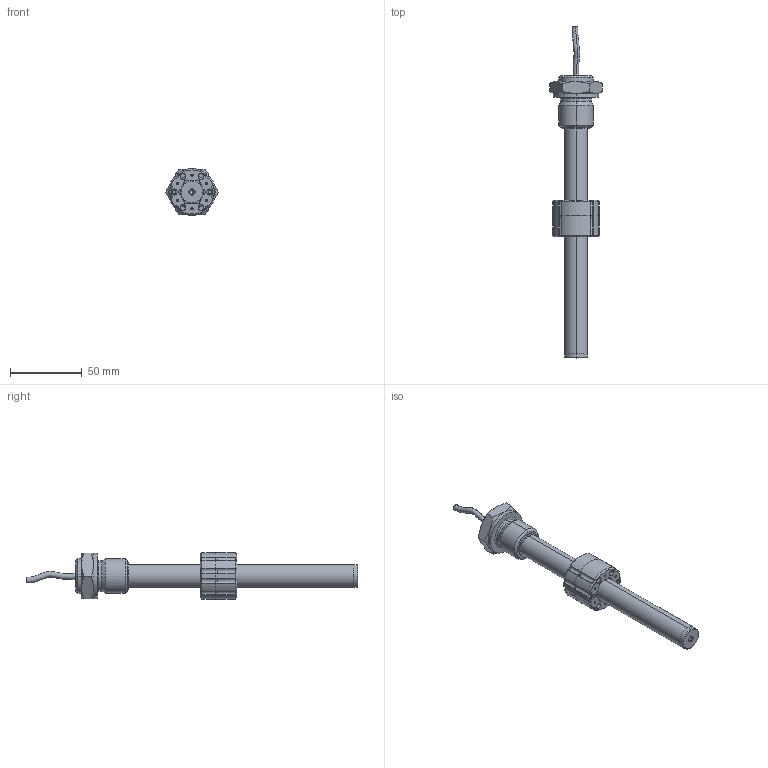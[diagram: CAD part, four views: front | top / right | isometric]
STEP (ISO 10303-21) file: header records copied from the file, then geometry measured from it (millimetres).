
FILE_DESCRIPTION (( 'STEP AP203' ), '1' );
FILE_NAME ('PMI-12-F-0100-M V2.STEP', '2010-11-10T14:23:51', ( 'loda' ), ( '' ), 'SwSTEP 2.0', 'SolidWorks 2010', '' );
FILE_SCHEMA (( 'CONFIG_CONTROL_DESIGN' ));
Length unit declared in the file: millimetre
Products named in the file (11): NIP002X; CUS852X; MIM803X_MIM803; INS003X; PMI-12-F-0100-M V2; TUB861X; PUN011X; TAP002X; PMEV2 cavoX; PCUR032X; CUS853X
Assembly tree (12 placements, depth 3):
  PMI-12-F-0100-M V2
    TUB861X
    TAP002X
    NIP002X
    PUN011X
    PMEV2 cavoX
    PCUR032X
      CUS852X
      INS003X  x2
      MIM803X_MIM803  x2
      CUS853X
Bounding box: 36.95 x 231.7 x 32.8 mm (x, y, z)
Volume: 42694.2 mm3; surface area: 35982.1 mm2
Topology: 11 solids, 11 shells, 904 faces, 2310 edges, 1445 vertices
Faces by surface type: cone 412, cylinder 388, plane 92, torus 10, bspline 2
Entity records: 20885 total; most frequent: CARTESIAN_POINT 4002, DIRECTION 3712, ORIENTED_EDGE 3100, AXIS2_PLACEMENT_3D 1582, EDGE_CURVE 1550, VERTEX_POINT 980, CIRCLE 952, EDGE_LOOP 704
